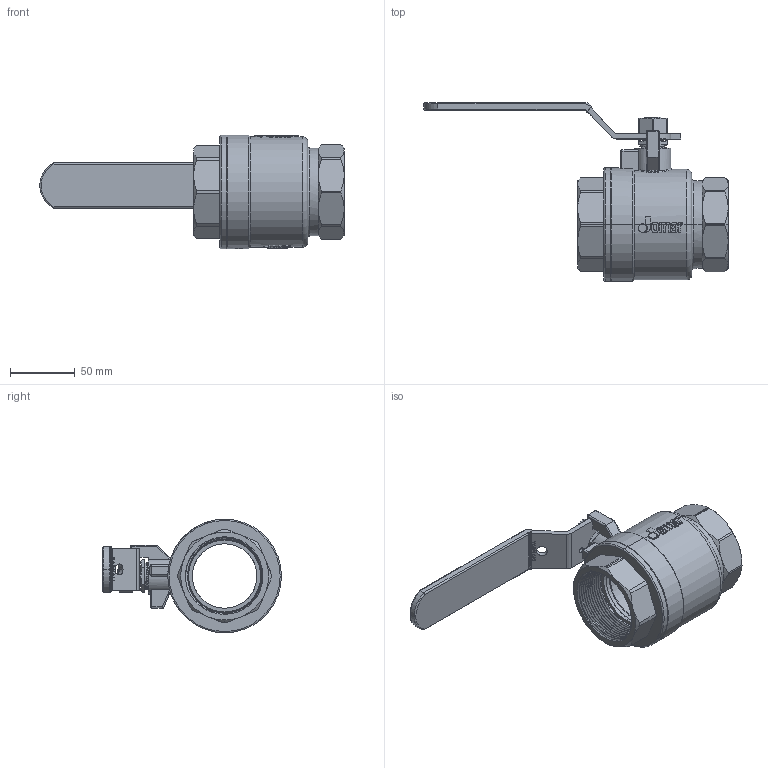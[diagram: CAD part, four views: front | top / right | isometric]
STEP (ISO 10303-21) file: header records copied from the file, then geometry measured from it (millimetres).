
FILE_DESCRIPTION (( 'STEP AP203' ), '1' );
FILE_NAME ('ABL708-無掛鎖-2''''JOMAR 球閥體組合-無鉛無插溝-2025.STEP', '2025-06-25T06:42:54', ( '' ), ( '' ), 'SwSTEP 2.0', 'SolidWorks 2018', '' );
FILE_SCHEMA (( 'CONFIG_CONTROL_DESIGN' ));
Length unit declared in the file: millimetre
Products named in the file (13): CBL238; DN50-CBL238白色膠套-T-200CSSG; ABL708-無掛鎖-2''''JOMAR 球閥體組合-無鉛無插溝-2025; EBL208B; BBL708-2''''JOMAR球閥體-無鉛-無插溝; RBL267; TBL269; EBL208C; BBL708A-2''''JOMAR八角頭-無鉛無插溝; DN40-DN50-CBL707-無掛鎖把手組合-白色膠套 T-200CSSG; EBL308; NBL268; GBL218
Assembly tree (13 placements, depth 3):
  ABL708-無掛鎖-2''''JOMAR 球閥體組合-無鉛無插溝-2025
    BBL708-2''''JOMAR球閥體-無鉛-無插溝
    EBL208C
    EBL208B
    RBL267
    GBL218
    BBL708A-2''''JOMAR八角頭-無鉛無插溝
    EBL308  x2
    NBL268
    TBL269
    DN40-DN50-CBL707-無掛鎖把手組合-白色膠套 T-200CSSG
      CBL238
      DN50-CBL238白色膠套-T-200CSSG
Bounding box: 235.7 x 138.52 x 88 mm (x, y, z)
Volume: 329877.4 mm3; surface area: 163162.2 mm2
Topology: 18 solids, 18 shells, 2308 faces, 6186 edges, 4079 vertices
Faces by surface type: plane 1181, bspline 650, cylinder 302, cone 134, torus 27, sphere 14
Entity records: 127855 total; most frequent: CARTESIAN_POINT 74360, ORIENTED_EDGE 12296, DIRECTION 8191, EDGE_CURVE 6148, VERTEX_POINT 4059, LINE 3727, VECTOR 3727, EDGE_LOOP 2497
